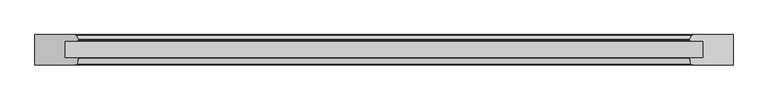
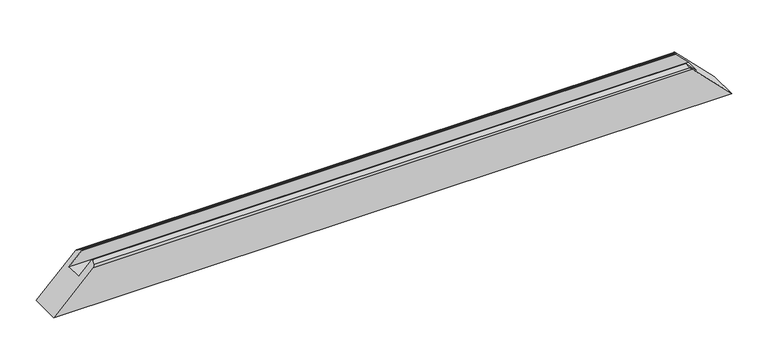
"""IFC4 building model written with IfcOpenShell, lengths in millimetres: proxy geometry, Weiku - Montante - Caixilho fixo : Weiku - Montante - Caixilho fixo."""

from ifc_helpers import new_model, si_unit, frame, origin, place, context, project, spatial, ellipse_curve, source, transform, mapped, element, save
from ifc_brep_helpers import plane_surface, cylinder_surface, advanced_brep


def generic_models_6a7ea365(model_context):
    return source(origin(), model_context, "Body", "AdvancedBrep", [
        advanced_brep(
        [(-469.718227, -37.0070552, 66.881773), (-470.4909676, -36.0, 66.1090324), (-490.6, -36.0, 46.0), (-490.6, -9.5, 46.0), (-470.3, -9.5, 66.3), (-469.6, -8.8, 67.0), (-469.6, -7.4641016, 67.0), (-469.8679492, -6.4641016, 66.7320508), (-473.3113249, -0.5, 63.2886751), (-474.1773503, 0.0, 62.4226497), (-536.6, 0.0, 0.0), (-536.6, -47.0, 0.0), (-474.6978094, -47.0, 61.9021906), (-471.8000319, -44.7764571, 64.7999681), (471.8000319, -44.7764571, 64.7999681), (474.6978094, -47.0, 61.9021906), (536.6, -47.0, 0.0), (536.6, 0.0, 0.0), (474.1773503, 0.0, 62.4226497), (473.3113249, -0.5, 63.2886751), (469.8679492, -6.4641016, 66.7320508), (469.6, -7.4641016, 67.0), (469.6, -8.8, 67.0), (470.3, -9.5, 66.3), (490.6, -9.5, 46.0), (490.6, -36.0, 46.0), (470.4909676, -36.0, 66.1090324), (469.718227, -37.0070552, 66.881773)],
        [
            (0, 1, ellipse_curve(frame((-470.4909676, -36.8, 66.1090324), z_axis=(-0.7071067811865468, 0.0, 0.7071067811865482), x_axis=(-0.7071067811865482, 0.0, -0.7071067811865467)), 1.1313708, 0.8)),
            (1, 2),
            (2, 3),
            (3, 4),
            (4, 5, ellipse_curve(frame((-470.3, -8.8, 66.3), z_axis=(-0.7071067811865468, 0.0, 0.7071067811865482), x_axis=(-0.7071067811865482, 0.0, -0.7071067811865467)), 0.9899495, 0.7)),
            (5, 6),
            (6, 7, ellipse_curve(frame((-471.6, -7.4641016, 65.0), z_axis=(-0.7071067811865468, 0.0, 0.7071067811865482), x_axis=(-0.7071067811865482, 0.0, -0.7071067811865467)), 2.8284271, 2.0)),
            (7, 8),
            (8, 9, ellipse_curve(frame((-474.1773503, -1.0, 62.4226497), z_axis=(-0.7071067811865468, 0.0, 0.7071067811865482), x_axis=(-0.7071067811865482, 0.0, -0.7071067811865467)), 1.4142136, 1.0)),
            (9, 10),
            (10, 11),
            (11, 12),
            (12, 13, ellipse_curve(frame((-474.6978094, -44.0, 61.9021906), z_axis=(-0.7071067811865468, 0.0, 0.7071067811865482), x_axis=(-0.7071067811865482, 0.0, -0.7071067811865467)), 4.2426407, 3.0)),
            (13, 0),
            (14, 15, ellipse_curve(frame((474.6978094, -44.0, 61.9021906), z_axis=(0.7071067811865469, 0.0, 0.7071067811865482), x_axis=(-0.707106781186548, 0.0, 0.7071067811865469)), 4.2426407, 3.0)),
            (15, 16),
            (16, 17),
            (17, 18),
            (18, 19, ellipse_curve(frame((474.1773503, -1.0, 62.4226497), z_axis=(0.7071067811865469, 0.0, 0.7071067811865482), x_axis=(-0.707106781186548, 0.0, 0.7071067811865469)), 1.4142136, 1.0)),
            (19, 20),
            (20, 21, ellipse_curve(frame((471.6, -7.4641016, 65.0), z_axis=(0.7071067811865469, 0.0, 0.7071067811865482), x_axis=(-0.707106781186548, 0.0, 0.7071067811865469)), 2.8284271, 2.0)),
            (21, 22),
            (22, 23, ellipse_curve(frame((470.3, -8.8, 66.3), z_axis=(0.7071067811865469, 0.0, 0.7071067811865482), x_axis=(-0.707106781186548, 0.0, 0.7071067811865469)), 0.9899495, 0.7)),
            (23, 24),
            (24, 25),
            (25, 26),
            (26, 27, ellipse_curve(frame((470.4909676, -36.8, 66.1090324), z_axis=(0.7071067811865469, 0.0, 0.7071067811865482), x_axis=(-0.707106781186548, 0.0, 0.7071067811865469)), 1.1313708, 0.8)),
            (27, 14),
            (13, 14),
            (27, 0),
            (12, 15),
            (11, 16),
            (10, 17),
            (9, 18),
            (2, 25),
            (24, 3),
            (1, 26),
            (8, 19),
            (7, 20),
            (6, 21),
            (5, 22),
            (4, 23),
        ],
        [
            plane_surface(frame((-606.6, 15.0, -70.0), z_axis=(-0.7071067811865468, 0.0, 0.7071067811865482), x_axis=(0.0, -1.0, 0.0))),
            plane_surface(frame((466.6, 15.0, 70.0), z_axis=(0.7071067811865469, 0.0, 0.7071067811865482), x_axis=(0.0, -1.0, 0.0))),
            plane_surface(frame((-536.6, -37.0070552, 66.881773), z_axis=(0.0, -0.2588190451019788, 0.9659258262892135), x_axis=(1.0, 0.0, 0.0))),
            cylinder_surface(frame((-536.6, -44.0, 61.9021906), z_axis=(-1.0, 0.0, 0.0), x_axis=(0.0, -1.0, 0.0)), 3.0),
            plane_surface(frame((-536.6, -47.0, 61.9021906), z_axis=(0.0, -1.0, 0.0), x_axis=(1.0, 0.0, 0.0))),
            plane_surface(frame((-536.6, -47.0, 0.0), z_axis=(0.0, 0.0, -1.0), x_axis=(1.0, 0.0, 0.0))),
            plane_surface(frame((-536.6, 0.0, 0.0), z_axis=(0.0, 1.0, 0.0), x_axis=(1.0, 0.0, 0.0))),
            plane_surface(frame((-536.6, -9.5, 46.0), z_axis=(0.0, 0.0, 1.0), x_axis=(1.0, 0.0, 0.0))),
            plane_surface(frame((-536.6, -36.0, 46.0), z_axis=(0.0, 1.0, 0.0), x_axis=(1.0, 0.0, 0.0))),
            cylinder_surface(frame((-536.6, -36.8, 66.1090324), z_axis=(-1.0, 0.0, 0.0), x_axis=(0.0, -1.0, 0.0)), 0.8),
            cylinder_surface(frame((-536.6, -1.0, 62.4226497), z_axis=(-1.0, 0.0, 0.0), x_axis=(0.0, -1.0, 0.0)), 1.0),
            plane_surface(frame((-536.6, -0.5, 63.2886751), z_axis=(0.0, 0.49999999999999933, 0.866025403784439), x_axis=(1.0, 0.0, 0.0))),
            cylinder_surface(frame((-536.6, -7.4641016, 65.0), z_axis=(-1.0, 0.0, 0.0), x_axis=(0.0, -1.0, 0.0)), 2.0),
            plane_surface(frame((-536.6, -7.4641016, 67.0), z_axis=(0.0, 0.0, 1.0), x_axis=(1.0, 0.0, 0.0))),
            cylinder_surface(frame((-536.6, -8.8, 66.3), z_axis=(-1.0, 0.0, 0.0), x_axis=(0.0, -1.0, 0.0)), 0.7),
            plane_surface(frame((-536.6, -9.5, 66.3), z_axis=(0.0, -1.0, 0.0), x_axis=(1.0, 0.0, 0.0))),
        ],
        [
            (0, [[1, 2, 3, 4, 5, 6, 7, 8, 9, 10, 11, 12, 13, 14]]),
            (1, [[15, 16, 17, 18, 19, 20, 21, 22, 23, 24, 25, 26, 27, 28]]),
            (2, [[29, -28, 30, -14]]),
            (3, [[31, -15, -29, -13]]),
            (4, [[-16, -31, -12, 32]]),
            (5, [[-11, 33, -17, -32]]),
            (6, [[-10, 34, -18, -33]]),
            (7, [[35, -25, 36, -3]]),
            (8, [[37, -26, -35, -2]]),
            (9, [[-30, -27, -37, -1]]),
            (10, [[38, -19, -34, -9]]),
            (11, [[39, -20, -38, -8]]),
            (12, [[40, -21, -39, -7]]),
            (13, [[41, -22, -40, -6]]),
            (14, [[42, -23, -41, -5]]),
            (15, [[-36, -24, -42, -4]]),
        ],
    ),
    ])


if __name__ == "__main__":
    model = new_model("IFC4")
    model_context = context("Model", 3, world=origin())
    ifc_project = project(units=[si_unit("LENGTHUNIT", "METRE", prefix="MILLI")], contexts=[model_context])
    site = spatial("IfcSite", under=ifc_project)
    building = spatial("IfcBuilding", under=site)
    placement = place(None, origin())
    generic_models_shape = generic_models_6a7ea365(model_context)
    element("IfcBuildingElementProxy", 1, Name="Weiku - Montante - Caixilho fixo : Weiku - Montante - Caixilho fixo", ObjectType="Weiku - Montante - Caixilho fixo : Weiku - Montante - Caixilho fixo", at=placement, inside=building, context=model_context, shape_type="MappedRepresentation", body=[
        mapped(generic_models_shape, transform((0.0, 0.0, 0.0), x_axis=(1.0, 0.0, 0.0), y_axis=(0.0, 1.0, 0.0), z_axis=(0.0, 0.0, 1.0))),
    ])
    save(model, "model.ifc")
